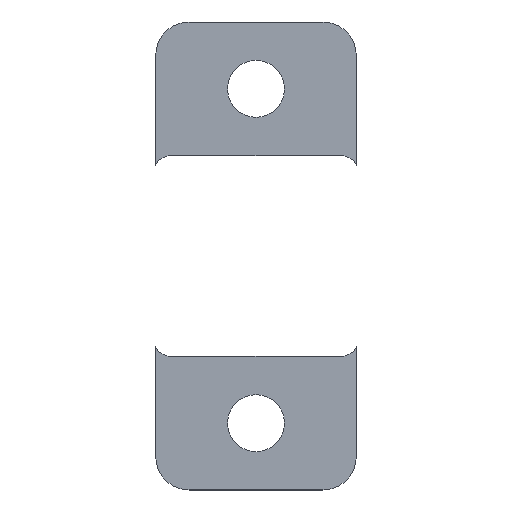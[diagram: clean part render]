
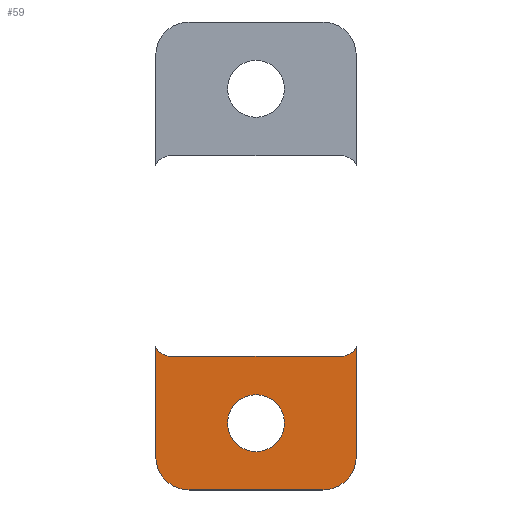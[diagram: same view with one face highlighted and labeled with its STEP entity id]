
A CAD part, top view. The second image highlights one B-rep face of the part: STEP entity #59.
In plain terms, the highlighted planar face has unit normal (0, 0, 1).
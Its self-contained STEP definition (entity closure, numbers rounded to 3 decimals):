
#21 = EDGE_CURVE('',#22,#24,#26,.T.);
#22 = VERTEX_POINT('',#23);
#23 = CARTESIAN_POINT('',(-18.,6.,0.2));
#24 = VERTEX_POINT('',#25);
#25 = CARTESIAN_POINT('',(-16.,4.,0.2));
#26 = CIRCLE('',#27,2.);
#27 = AXIS2_PLACEMENT_3D('',#28,#29,#30);
#28 = CARTESIAN_POINT('',(-16.,6.,0.2));
#29 = DIRECTION('',(0.,0.,1.));
#30 = DIRECTION('',(1.,0.,-0.));
#59 = ADVANCED_FACE('',(#60,#120),#131,.T.);
#60 = FACE_BOUND('',#61,.T.);
#61 = EDGE_LOOP('',(#62,#70,#71,#79,#88,#96,#105,#113));
#62 = ORIENTED_EDGE('',*,*,#63,.F.);
#63 = EDGE_CURVE('',#22,#64,#66,.T.);
#64 = VERTEX_POINT('',#65);
#65 = CARTESIAN_POINT('',(-18.,12.564,0.2));
#66 = LINE('',#67,#68);
#67 = CARTESIAN_POINT('',(-18.,6.,0.2));
#68 = VECTOR('',#69,1.);
#69 = DIRECTION('',(-0.,1.,0.));
#70 = ORIENTED_EDGE('',*,*,#21,.T.);
#71 = ORIENTED_EDGE('',*,*,#72,.T.);
#72 = EDGE_CURVE('',#24,#73,#75,.T.);
#73 = VERTEX_POINT('',#74);
#74 = CARTESIAN_POINT('',(-8.,4.,0.2));
#75 = LINE('',#76,#77);
#76 = CARTESIAN_POINT('',(-16.,4.,0.2));
#77 = VECTOR('',#78,1.);
#78 = DIRECTION('',(1.,0.,-0.));
#79 = ORIENTED_EDGE('',*,*,#80,.T.);
#80 = EDGE_CURVE('',#73,#81,#83,.T.);
#81 = VERTEX_POINT('',#82);
#82 = CARTESIAN_POINT('',(-6.,6.,0.2));
#83 = CIRCLE('',#84,2.);
#84 = AXIS2_PLACEMENT_3D('',#85,#86,#87);
#85 = CARTESIAN_POINT('',(-8.,6.,0.2));
#86 = DIRECTION('',(0.,0.,1.));
#87 = DIRECTION('',(1.,0.,-0.));
#88 = ORIENTED_EDGE('',*,*,#89,.T.);
#89 = EDGE_CURVE('',#81,#90,#92,.T.);
#90 = VERTEX_POINT('',#91);
#91 = CARTESIAN_POINT('',(-6.,12.564,0.2));
#92 = LINE('',#93,#94);
#93 = CARTESIAN_POINT('',(-6.,6.,0.2));
#94 = VECTOR('',#95,1.);
#95 = DIRECTION('',(-0.,1.,0.));
#96 = ORIENTED_EDGE('',*,*,#97,.F.);
#97 = EDGE_CURVE('',#98,#90,#100,.T.);
#98 = VERTEX_POINT('',#99);
#99 = CARTESIAN_POINT('',(-6.9,12.,0.2));
#100 = CIRCLE('',#101,1.);
#101 = AXIS2_PLACEMENT_3D('',#102,#103,#104);
#102 = CARTESIAN_POINT('',(-6.9,13.,0.2));
#103 = DIRECTION('',(0.,0.,1.));
#104 = DIRECTION('',(1.,0.,-0.));
#105 = ORIENTED_EDGE('',*,*,#106,.T.);
#106 = EDGE_CURVE('',#98,#107,#109,.T.);
#107 = VERTEX_POINT('',#108);
#108 = CARTESIAN_POINT('',(-17.1,12.,0.2));
#109 = LINE('',#110,#111);
#110 = CARTESIAN_POINT('',(-14.55,12.,0.2));
#111 = VECTOR('',#112,1.);
#112 = DIRECTION('',(-1.,-0.,0.));
#113 = ORIENTED_EDGE('',*,*,#114,.F.);
#114 = EDGE_CURVE('',#64,#107,#115,.T.);
#115 = CIRCLE('',#116,1.);
#116 = AXIS2_PLACEMENT_3D('',#117,#118,#119);
#117 = CARTESIAN_POINT('',(-17.1,13.,0.2));
#118 = DIRECTION('',(0.,0.,1.));
#119 = DIRECTION('',(1.,0.,-0.));
#120 = FACE_BOUND('',#121,.T.);
#121 = EDGE_LOOP('',(#122));
#122 = ORIENTED_EDGE('',*,*,#123,.F.);
#123 = EDGE_CURVE('',#124,#124,#126,.T.);
#124 = VERTEX_POINT('',#125);
#125 = CARTESIAN_POINT('',(-10.3,8.,0.2));
#126 = CIRCLE('',#127,1.7);
#127 = AXIS2_PLACEMENT_3D('',#128,#129,#130);
#128 = CARTESIAN_POINT('',(-12.,8.,0.2));
#129 = DIRECTION('',(0.,0.,1.));
#130 = DIRECTION('',(1.,0.,-0.));
#131 = PLANE('',#132);
#132 = AXIS2_PLACEMENT_3D('',#133,#134,#135);
#133 = CARTESIAN_POINT('',(-12.,18.,0.2));
#134 = DIRECTION('',(0.,0.,1.));
#135 = DIRECTION('',(1.,0.,-0.));
